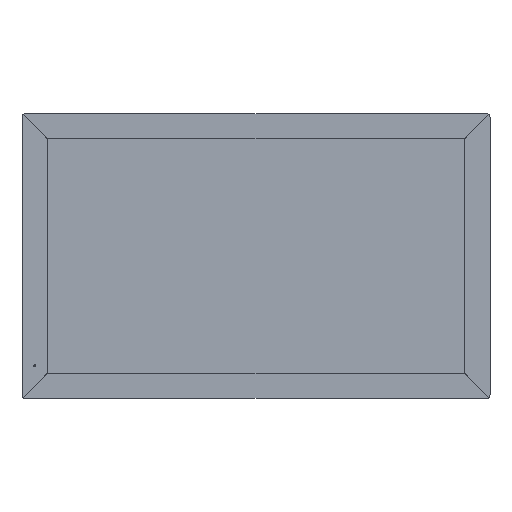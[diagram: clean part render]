
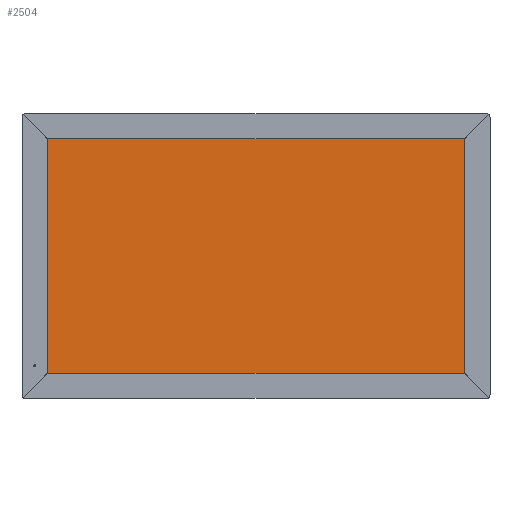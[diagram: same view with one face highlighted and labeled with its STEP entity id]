
A CAD part, top view. The second image highlights one B-rep face of the part: STEP entity #2504.
In plain terms, the highlighted planar face has unit normal (0, 0, 1).
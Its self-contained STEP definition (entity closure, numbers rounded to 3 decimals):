
#427 = LINE ( 'NONE', #6778, #6869 ) ;
#734 = VERTEX_POINT ( 'NONE', #3649 ) ;
#870 = LINE ( 'NONE', #6623, #5231 ) ;
#970 = CARTESIAN_POINT ( 'NONE',  ( -344.59, 193.4, -1. ) ) ;
#1082 = VERTEX_POINT ( 'NONE', #970 ) ;
#1777 = AXIS2_PLACEMENT_3D ( 'NONE', #6406, #5663, #2555 ) ;
#1833 = CARTESIAN_POINT ( 'NONE',  ( -344.59, -193.4, -1. ) ) ;
#2010 = CARTESIAN_POINT ( 'NONE',  ( 344.59, 193.4, -1. ) ) ;
#2094 = DIRECTION ( 'NONE',  ( -1., 0., 0. ) ) ;
#2504 = ADVANCED_FACE ( 'NONE', ( #2506 ), #5787, .F. ) ;
#2506 = FACE_OUTER_BOUND ( 'NONE', #6420, .T. ) ;
#2555 = DIRECTION ( 'NONE',  ( -1., 0., 0. ) ) ;
#2592 = LINE ( 'NONE', #1833, #2928 ) ;
#2928 = VECTOR ( 'NONE', #7592, 1000. ) ;
#3400 = ORIENTED_EDGE ( 'NONE', *, *, #7745, .T. ) ;
#3649 = CARTESIAN_POINT ( 'NONE',  ( -344.59, -193.4, -1. ) ) ;
#3692 = ORIENTED_EDGE ( 'NONE', *, *, #4131, .T. ) ;
#3749 = VECTOR ( 'NONE', #2094, 1000. ) ;
#4131 = EDGE_CURVE ( 'NONE', #1082, #734, #2592, .T. ) ;
#4177 = VERTEX_POINT ( 'NONE', #4435 ) ;
#4435 = CARTESIAN_POINT ( 'NONE',  ( 344.59, -193.4, -1. ) ) ;
#5063 = ORIENTED_EDGE ( 'NONE', *, *, #6794, .T. ) ;
#5231 = VECTOR ( 'NONE', #5986, 1000. ) ;
#5297 = LINE ( 'NONE', #7854, #3749 ) ;
#5426 = ORIENTED_EDGE ( 'NONE', *, *, #6143, .T. ) ;
#5560 = VERTEX_POINT ( 'NONE', #2010 ) ;
#5589 = DIRECTION ( 'NONE',  ( 0., 1., 0. ) ) ;
#5663 = DIRECTION ( 'NONE',  ( 0., 0., -1. ) ) ;
#5787 = PLANE ( 'NONE',  #1777 ) ;
#5986 = DIRECTION ( 'NONE',  ( 1., 0., 0. ) ) ;
#6143 = EDGE_CURVE ( 'NONE', #734, #4177, #870, .T. ) ;
#6406 = CARTESIAN_POINT ( 'NONE',  ( 0., 0., -1. ) ) ;
#6420 = EDGE_LOOP ( 'NONE', ( #3692, #5426, #3400, #5063 ) ) ;
#6623 = CARTESIAN_POINT ( 'NONE',  ( -344.59, -193.4, -1. ) ) ;
#6778 = CARTESIAN_POINT ( 'NONE',  ( 344.59, -193.4, -1. ) ) ;
#6794 = EDGE_CURVE ( 'NONE', #5560, #1082, #5297, .T. ) ;
#6869 = VECTOR ( 'NONE', #5589, 1000. ) ;
#7592 = DIRECTION ( 'NONE',  ( 0., -1., 0. ) ) ;
#7745 = EDGE_CURVE ( 'NONE', #4177, #5560, #427, .T. ) ;
#7854 = CARTESIAN_POINT ( 'NONE',  ( -344.59, 193.4, -1. ) ) ;
